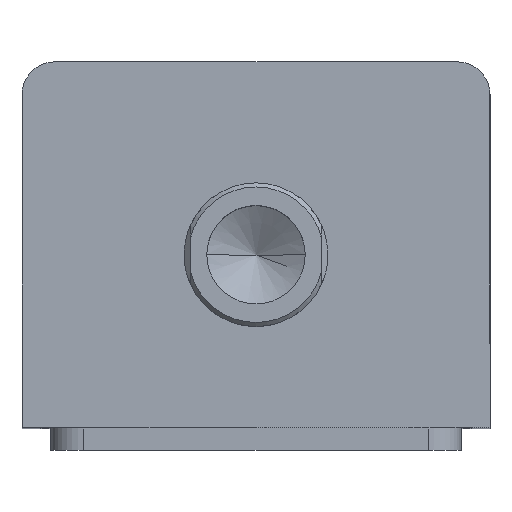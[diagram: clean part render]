
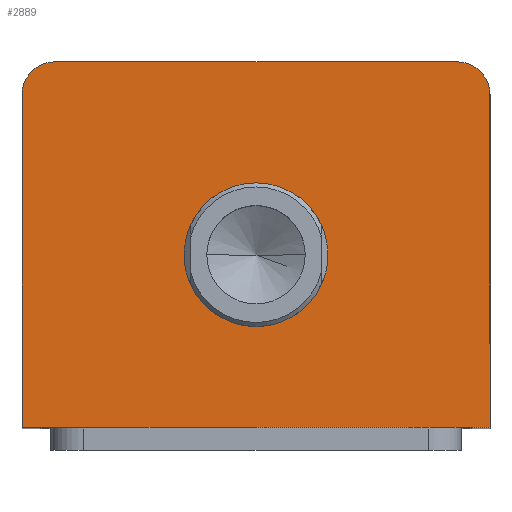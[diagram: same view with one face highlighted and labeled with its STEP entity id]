
A CAD part, top view. The second image highlights one B-rep face of the part: STEP entity #2889.
In plain terms, the highlighted planar face has unit normal (0, 0, 1).
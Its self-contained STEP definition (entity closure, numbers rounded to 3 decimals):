
#40 = EDGE_LOOP ( 'NONE', ( #1054, #1053 ) ) ;
#41 = EDGE_LOOP ( 'NONE', ( #1052, #1051, #1050, #1049, #1048, #1047 ) ) ;
#157 = VECTOR ( 'NONE', #1418, 1000. ) ;
#162 = LINE ( 'NONE', #1413, #157 ) ;
#183 = DIRECTION ( 'NONE',  ( 0., -1., 0. ) ) ;
#188 = CARTESIAN_POINT ( 'NONE',  ( -57., 44.5, 182. ) ) ;
#206 = DIRECTION ( 'NONE',  ( 1., 0., 0. ) ) ;
#208 = DIRECTION ( 'NONE',  ( 0., 0., 1. ) ) ;
#209 = CARTESIAN_POINT ( 'NONE',  ( 0., -2.5, 182. ) ) ;
#233 = DIRECTION ( 'NONE',  ( 1., 0., 0. ) ) ;
#234 = CARTESIAN_POINT ( 'NONE',  ( -57., -44.5, 182. ) ) ;
#313 = DIRECTION ( 'NONE',  ( 0., 1., 0. ) ) ;
#325 = CARTESIAN_POINT ( 'NONE',  ( 57., 44.5, 182. ) ) ;
#337 = DIRECTION ( 'NONE',  ( 1., 0., 0. ) ) ;
#338 = DIRECTION ( 'NONE',  ( 0., 0., 1. ) ) ;
#340 = CARTESIAN_POINT ( 'NONE',  ( 49., 36.5, 182. ) ) ;
#380 = DIRECTION ( 'NONE',  ( 1., 0., 0. ) ) ;
#381 = DIRECTION ( 'NONE',  ( 0., 0., 1. ) ) ;
#384 = CARTESIAN_POINT ( 'NONE',  ( -49., 36.5, 182. ) ) ;
#436 = LINE ( 'NONE', #188, #439 ) ;
#439 = VECTOR ( 'NONE', #183, 1000. ) ;
#444 = CIRCLE ( 'NONE', #2314, 8. ) ;
#454 = CIRCLE ( 'NONE', #2321, 8. ) ;
#463 = LINE ( 'NONE', #325, #465 ) ;
#465 = VECTOR ( 'NONE', #313, 1000. ) ;
#496 = LINE ( 'NONE', #234, #498 ) ;
#498 = VECTOR ( 'NONE', #233, 1000. ) ;
#503 = CIRCLE ( 'NONE', #2339, 17.5 ) ;
#527 = CIRCLE ( 'NONE', #2347, 17.5 ) ;
#753 = CARTESIAN_POINT ( 'NONE',  ( -17.5, -2.5, 182. ) ) ;
#1047 = ORIENTED_EDGE ( 'NONE', *, *, #2133, .T. ) ;
#1048 = ORIENTED_EDGE ( 'NONE', *, *, #2141, .T. ) ;
#1049 = ORIENTED_EDGE ( 'NONE', *, *, #2162, .T. ) ;
#1050 = ORIENTED_EDGE ( 'NONE', *, *, #2120, .T. ) ;
#1051 = ORIENTED_EDGE ( 'NONE', *, *, #2124, .T. ) ;
#1052 = ORIENTED_EDGE ( 'NONE', *, *, #2084, .T. ) ;
#1053 = ORIENTED_EDGE ( 'NONE', *, *, #2166, .F. ) ;
#1054 = ORIENTED_EDGE ( 'NONE', *, *, #2182, .F. ) ;
#1248 = VERTEX_POINT ( 'NONE', #753 ) ;
#1264 = VERTEX_POINT ( 'NONE', #1595 ) ;
#1268 = VERTEX_POINT ( 'NONE', #1586 ) ;
#1271 = VERTEX_POINT ( 'NONE', #1584 ) ;
#1281 = VERTEX_POINT ( 'NONE', #1560 ) ;
#1294 = VERTEX_POINT ( 'NONE', #1517 ) ;
#1322 = VERTEX_POINT ( 'NONE', #1438 ) ;
#1327 = VERTEX_POINT ( 'NONE', #1423 ) ;
#1413 = CARTESIAN_POINT ( 'NONE',  ( -57., 44.5, 182. ) ) ;
#1418 = DIRECTION ( 'NONE',  ( -1., 0., 0. ) ) ;
#1423 = CARTESIAN_POINT ( 'NONE',  ( -57., 36.5, 182. ) ) ;
#1438 = CARTESIAN_POINT ( 'NONE',  ( -49., 44.5, 182. ) ) ;
#1517 = CARTESIAN_POINT ( 'NONE',  ( -57., -44.5, 182. ) ) ;
#1560 = CARTESIAN_POINT ( 'NONE',  ( 17.5, -2.5, 182. ) ) ;
#1584 = CARTESIAN_POINT ( 'NONE',  ( 57., 36.5, 182. ) ) ;
#1586 = CARTESIAN_POINT ( 'NONE',  ( 49., 44.5, 182. ) ) ;
#1595 = CARTESIAN_POINT ( 'NONE',  ( 57., -44.5, 182. ) ) ;
#1752 = FACE_BOUND ( 'NONE', #40, .T. ) ;
#1755 = FACE_OUTER_BOUND ( 'NONE', #41, .T. ) ;
#2084 = EDGE_CURVE ( 'NONE', #1268, #1322, #162, .T. ) ;
#2120 = EDGE_CURVE ( 'NONE', #1327, #1294, #436, .T. ) ;
#2124 = EDGE_CURVE ( 'NONE', #1322, #1327, #444, .T. ) ;
#2133 = EDGE_CURVE ( 'NONE', #1271, #1268, #454, .T. ) ;
#2141 = EDGE_CURVE ( 'NONE', #1264, #1271, #463, .T. ) ;
#2162 = EDGE_CURVE ( 'NONE', #1294, #1264, #496, .T. ) ;
#2166 = EDGE_CURVE ( 'NONE', #1248, #1281, #503, .T. ) ;
#2182 = EDGE_CURVE ( 'NONE', #1281, #1248, #527, .T. ) ;
#2314 = AXIS2_PLACEMENT_3D ( 'NONE', #384, #381, #380 ) ;
#2321 = AXIS2_PLACEMENT_3D ( 'NONE', #340, #338, #337 ) ;
#2339 = AXIS2_PLACEMENT_3D ( 'NONE', #209, #208, #206 ) ;
#2347 = AXIS2_PLACEMENT_3D ( 'NONE', #3426, #3430, #3424 ) ;
#2443 = AXIS2_PLACEMENT_3D ( 'NONE', #2978, #3130, #3129 ) ;
#2889 = ADVANCED_FACE ( 'NONE', ( #1752, #1755 ), #3133, .T. ) ;
#2978 = CARTESIAN_POINT ( 'NONE',  ( 0., 0., 182. ) ) ;
#3129 = DIRECTION ( 'NONE',  ( 1., 0., 0. ) ) ;
#3130 = DIRECTION ( 'NONE',  ( 0., 0., 1. ) ) ;
#3133 = PLANE ( 'NONE',  #2443 ) ;
#3424 = DIRECTION ( 'NONE',  ( 1., 0., 0. ) ) ;
#3426 = CARTESIAN_POINT ( 'NONE',  ( 0., -2.5, 182. ) ) ;
#3430 = DIRECTION ( 'NONE',  ( 0., 0., 1. ) ) ;
